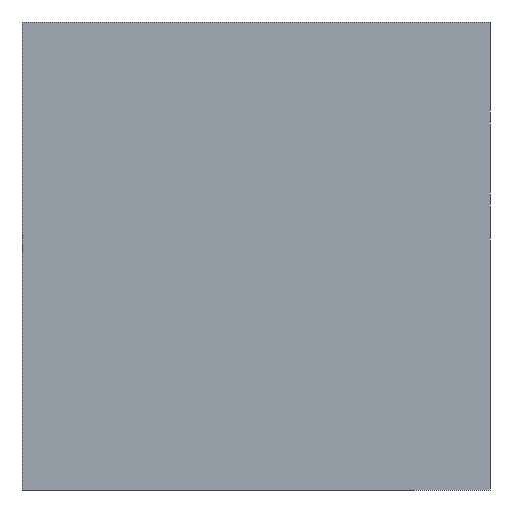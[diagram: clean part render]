
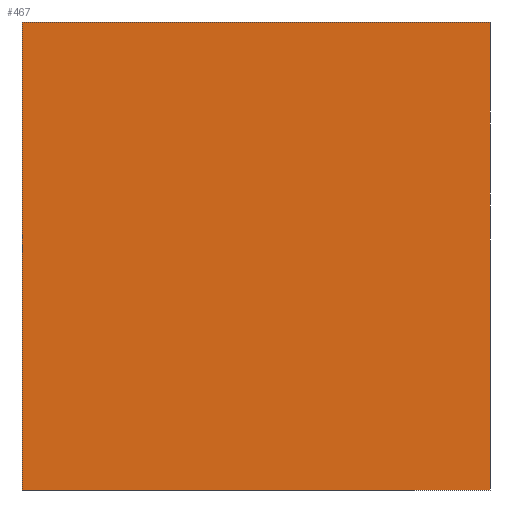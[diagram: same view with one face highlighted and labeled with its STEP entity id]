
A CAD part, left-side view. The second image highlights one B-rep face of the part: STEP entity #467.
In plain terms, the highlighted planar face has unit normal (-1, 0, 0).
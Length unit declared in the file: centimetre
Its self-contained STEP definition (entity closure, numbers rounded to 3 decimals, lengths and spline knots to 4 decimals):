
#16 = VERTEX_POINT ( 'NONE', #285 ) ;
#36 = DIRECTION ( 'NONE',  ( 0., -1., 0. ) ) ;
#58 = ORIENTED_EDGE ( 'NONE', *, *, #1004, .T. ) ;
#81 = ORIENTED_EDGE ( 'NONE', *, *, #471, .T. ) ;
#98 = AXIS2_PLACEMENT_3D ( 'NONE', #357, #201, #276 ) ;
#99 = ORIENTED_EDGE ( 'NONE', *, *, #507, .F. ) ;
#182 = VECTOR ( 'NONE', #36, 100. ) ;
#201 = DIRECTION ( 'NONE',  ( 1., 0., 0. ) ) ;
#276 = DIRECTION ( 'NONE',  ( 0., 0., -1. ) ) ;
#279 = LINE ( 'NONE', #447, #837 ) ;
#285 = CARTESIAN_POINT ( 'NONE',  ( 0., 1000., 1000. ) ) ;
#290 = VECTOR ( 'NONE', #363, 100. ) ;
#357 = CARTESIAN_POINT ( 'NONE',  ( 0., 1000., 1000. ) ) ;
#363 = DIRECTION ( 'NONE',  ( 0., 0., -1. ) ) ;
#430 = FACE_OUTER_BOUND ( 'NONE', #949, .T. ) ;
#431 = VERTEX_POINT ( 'NONE', #905 ) ;
#442 = LINE ( 'NONE', #743, #182 ) ;
#447 = CARTESIAN_POINT ( 'NONE',  ( 0., 1000., 0. ) ) ;
#456 = DIRECTION ( 'NONE',  ( 0., -1., 0. ) ) ;
#467 = ADVANCED_FACE ( 'NONE', ( #430 ), #735, .F. ) ;
#471 = EDGE_CURVE ( 'NONE', #16, #431, #901, .T. ) ;
#475 = EDGE_CURVE ( 'NONE', #16, #677, #442, .T. ) ;
#507 = EDGE_CURVE ( 'NONE', #677, #823, #977, .T. ) ;
#512 = CARTESIAN_POINT ( 'NONE',  ( 0., 1000., 1000. ) ) ;
#534 = VECTOR ( 'NONE', #893, 100. ) ;
#671 = CARTESIAN_POINT ( 'NONE',  ( 0., 0., 1000. ) ) ;
#677 = VERTEX_POINT ( 'NONE', #919 ) ;
#721 = CARTESIAN_POINT ( 'NONE',  ( 0., 0., 0. ) ) ;
#735 = PLANE ( 'NONE',  #98 ) ;
#743 = CARTESIAN_POINT ( 'NONE',  ( 0., 1000., 1000. ) ) ;
#782 = ORIENTED_EDGE ( 'NONE', *, *, #475, .F. ) ;
#823 = VERTEX_POINT ( 'NONE', #721 ) ;
#837 = VECTOR ( 'NONE', #456, 100. ) ;
#893 = DIRECTION ( 'NONE',  ( 0., 0., -1. ) ) ;
#901 = LINE ( 'NONE', #512, #290 ) ;
#905 = CARTESIAN_POINT ( 'NONE',  ( 0., 1000., 0. ) ) ;
#919 = CARTESIAN_POINT ( 'NONE',  ( 0., 0., 1000. ) ) ;
#949 = EDGE_LOOP ( 'NONE', ( #58, #99, #782, #81 ) ) ;
#977 = LINE ( 'NONE', #671, #534 ) ;
#1004 = EDGE_CURVE ( 'NONE', #431, #823, #279, .T. ) ;
